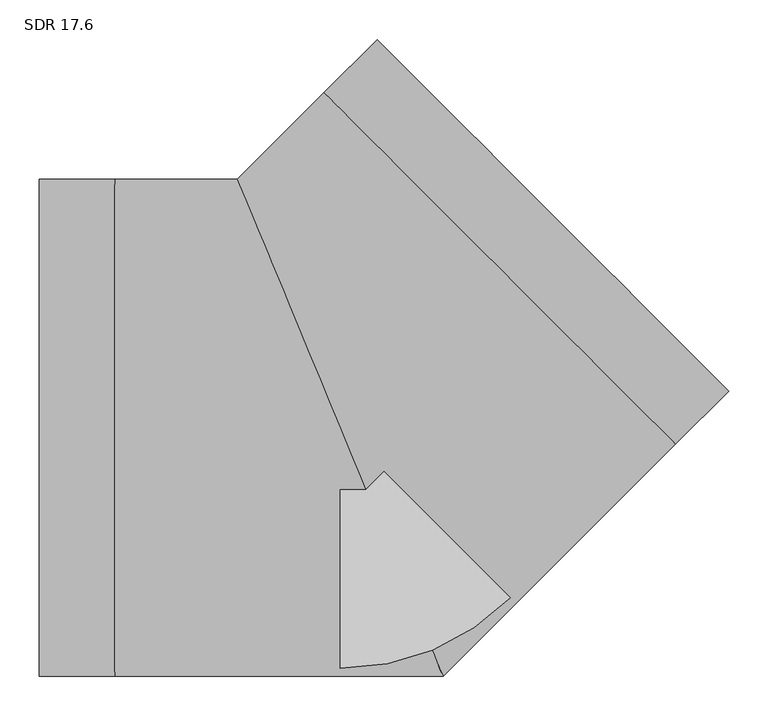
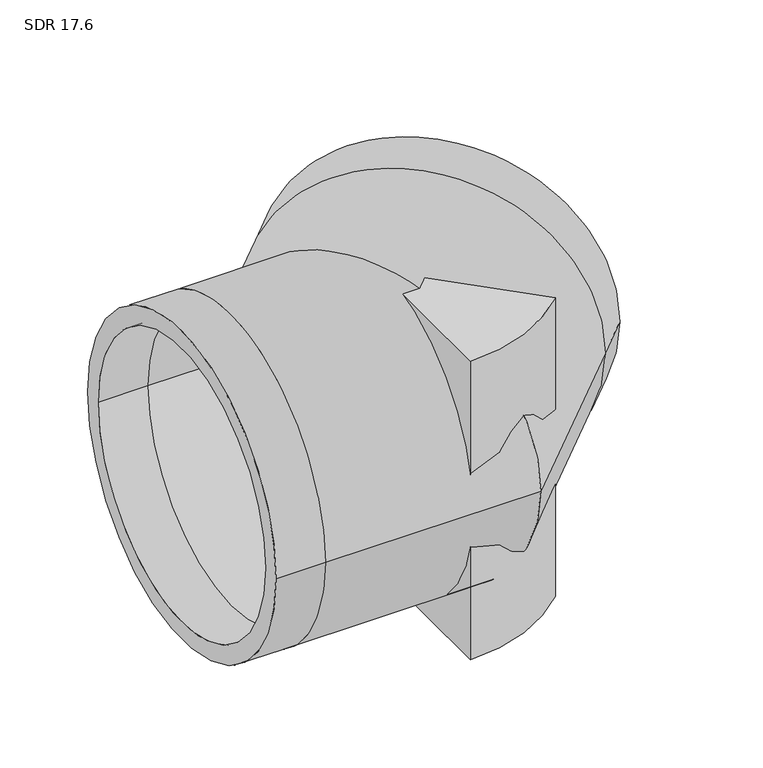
"""IFC4 building model written with IfcOpenShell, lengths in millimetres: pipe fitting geometry, Aquatherm - Elbow Blue BW Segmented : SDR 17.6."""

from ifc_helpers import new_model, si_unit, point, frame, origin, origin_with_axes, origin_2d, place, context, project, spatial, polyline, circle_curve, ellipse_curve, trimmed, segment, composite_curve, outline, extrude, source, transform, mapped, element, save
from ifc_brep_helpers import plane_surface, cylinder_surface, revolved_surface, advanced_brep


def sdr_17_6_9f08af5f(model_context):
    return source(origin(), model_context, "Body", "SolidModel", [
        extrude(outline(composite_curve([segment(polyline([(0.0, -304.8), (0.0, 0.0), (215.5261469, -215.5261469)]), True, "CONTINUOUS"), segment(trimmed(circle_curve(origin_2d(), 304.8), [point((215.5261469, -215.5261469))], [point((0.0, -304.8))], False, "CARTESIAN"), True, "CONTINUOUS")], self_intersect=False)), frame((0.0, 0.0, -304.8), z_axis=(0.0, 0.0, 1.0), x_axis=(1.0, 0.0, 0.0)), (0.0, 0.0, 1.0), 304.8),
        extrude(outline(composite_curve([segment(trimmed(circle_curve(origin_2d(), 304.8), [point((215.5261469, -215.5261469))], [point((0.0, -304.8))], False, "CARTESIAN"), True, "CONTINUOUS"), segment(polyline([(0.0, -304.8), (0.0, 0.0), (215.5261469, -215.5261469)]), True, "CONTINUOUS")], self_intersect=False)), origin_with_axes(), (0.0, 0.0, 1.0), 304.8),
        advanced_brep(
        [(-381.0, -314.96, 0.0), (-381.0, 314.96, 0.0), (-381.0, -279.1722681, 0.0), (-381.0, 279.1722681, 0.0), (492.1180354, 46.6973318, 0.0), (46.6973318, 492.1180354, 0.0), (466.8122875, 72.0030797, 0.0), (72.0030797, 466.8122875, 0.0), (-285.75, -314.96, 0.0), (-285.75, 314.96, 0.0), (-285.75, -279.1722681, 0.0), (-285.75, 279.1722681, 0.0), (130.4607036, -314.96, 0.0), (-130.4607036, 314.96, 0.0), (115.6369397, -279.1722681, 0.0), (-115.6369397, 279.1722681, 0.0), (424.7661145, -20.6545891, 0.0), (-20.6545891, 424.7661145, 0.0), (399.4603666, 4.6511588, 0.0), (4.6511588, 399.4603666, 0.0)],
        [
            (0, 1, circle_curve(frame((-381.0, 0.0, 0.0), z_axis=(-1.0, 0.0, 0.0), x_axis=(0.0, 1.0, 0.0)), 314.96)),
            (1, 0, circle_curve(frame((-381.0, 0.0, 0.0), z_axis=(-1.0, 0.0, 0.0), x_axis=(0.0, 1.0, 0.0)), 314.96)),
            (2, 3, circle_curve(frame((-381.0, 0.0, 0.0), z_axis=(1.0, 0.0, 0.0), x_axis=(0.0, 1.0, 0.0)), 279.1722681)),
            (3, 2, circle_curve(frame((-381.0, 0.0, 0.0), z_axis=(1.0, 0.0, 0.0), x_axis=(0.0, 1.0, 0.0)), 279.1722681)),
            (4, 5, circle_curve(frame((269.4076836, 269.4076836, 0.0), z_axis=(0.7071067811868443, 0.7071067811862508, 0.0), x_axis=(-0.7071067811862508, 0.7071067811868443, 0.0)), 314.96)),
            (5, 4, circle_curve(frame((269.4076836, 269.4076836, 0.0), z_axis=(0.7071067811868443, 0.7071067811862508, 0.0), x_axis=(-0.7071067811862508, 0.7071067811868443, 0.0)), 314.96)),
            (6, 7, circle_curve(frame((269.4076836, 269.4076836, 0.0), z_axis=(-0.7071067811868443, -0.7071067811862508, 0.0), x_axis=(-0.7071067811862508, 0.7071067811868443, 0.0)), 279.1722681)),
            (7, 6, circle_curve(frame((269.4076836, 269.4076836, 0.0), z_axis=(-0.7071067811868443, -0.7071067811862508, 0.0), x_axis=(-0.7071067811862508, 0.7071067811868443, 0.0)), 279.1722681)),
            (0, 8),
            (8, 9, circle_curve(frame((-285.75, 0.0, 0.0), z_axis=(-1.0, 0.0, 0.0), x_axis=(0.0, 1.0, 0.0)), 314.96)),
            (9, 1),
            (9, 8, circle_curve(frame((-285.75, 0.0, 0.0), z_axis=(-1.0, 0.0, 0.0), x_axis=(0.0, 1.0, 0.0)), 314.96)),
            (2, 10),
            (10, 11, circle_curve(frame((-285.75, 0.0, 0.0), z_axis=(1.0, 0.0, 0.0), x_axis=(0.0, 1.0, 0.0)), 279.1722681)),
            (11, 3),
            (11, 10, circle_curve(frame((-285.75, 0.0, 0.0), z_axis=(1.0, 0.0, 0.0), x_axis=(0.0, 1.0, 0.0)), 279.1722681)),
            (8, 12),
            (12, 13, ellipse_curve(frame((0.0, 0.0, 0.0), z_axis=(-0.923879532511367, -0.38268343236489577, 0.0), x_axis=(-0.3826834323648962, 0.9238795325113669, 0.0)), 340.9102474, 314.96)),
            (13, 9),
            (13, 12, ellipse_curve(frame((0.0, 0.0, 0.0), z_axis=(-0.923879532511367, -0.38268343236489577, 0.0), x_axis=(-0.3826834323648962, 0.9238795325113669, 0.0)), 340.9102474, 314.96)),
            (10, 14),
            (14, 15, ellipse_curve(frame((0.0, 0.0, 0.0), z_axis=(0.923879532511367, 0.38268343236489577, 0.0), x_axis=(0.3826834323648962, -0.9238795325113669, 0.0)), 302.1738855, 279.1722681)),
            (15, 11),
            (15, 14, ellipse_curve(frame((0.0, 0.0, 0.0), z_axis=(0.923879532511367, 0.38268343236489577, 0.0), x_axis=(0.3826834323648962, -0.9238795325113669, 0.0)), 302.1738855, 279.1722681)),
            (12, 16),
            (16, 17, circle_curve(frame((202.0557627, 202.0557627, 0.0), z_axis=(-0.7071067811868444, -0.7071067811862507, 0.0), x_axis=(-0.7071067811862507, 0.7071067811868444, 0.0)), 314.96)),
            (17, 13),
            (17, 16, circle_curve(frame((202.0557627, 202.0557627, 0.0), z_axis=(-0.7071067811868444, -0.7071067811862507, 0.0), x_axis=(-0.7071067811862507, 0.7071067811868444, 0.0)), 314.96)),
            (14, 18),
            (18, 19, circle_curve(frame((202.0557627, 202.0557627, 0.0), z_axis=(0.7071067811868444, 0.7071067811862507, 0.0), x_axis=(-0.7071067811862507, 0.7071067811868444, 0.0)), 279.1722681)),
            (19, 15),
            (19, 18, circle_curve(frame((202.0557627, 202.0557627, 0.0), z_axis=(0.7071067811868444, 0.7071067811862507, 0.0), x_axis=(-0.7071067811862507, 0.7071067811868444, 0.0)), 279.1722681)),
            (16, 4),
            (5, 17),
            (18, 6),
            (7, 19),
        ],
        [
            plane_surface(frame((-381.0, 0.0, 0.0), z_axis=(-1.0, 0.0, 0.0), x_axis=(0.0, 0.0, 1.0))),
            plane_surface(frame((269.4076836, 269.4076836, 0.0), z_axis=(0.7071067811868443, 0.7071067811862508, 0.0), x_axis=(0.0, 0.0, 1.0))),
            cylinder_surface(frame((-381.0, 0.0, 0.0), z_axis=(-1.0, 0.0, 0.0), x_axis=(0.0, 1.0, 0.0)), 314.96),
            revolved_surface(polyline([(-285.75, 279.1722681, 0.0), (-381.0, 279.1722681, 0.0)]), (-381.0, 0.0, 0.0), (1.0, 0.0, 0.0)),
            cylinder_surface(frame((-285.75, 0.0, 0.0), z_axis=(-1.0, 0.0, 0.0), x_axis=(0.0, 1.0, 0.0)), 314.96),
            revolved_surface(polyline([(115.63693969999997, 279.1722681, 0.0), (-285.75, 279.1722681, 0.0)]), (-285.75, 0.0, 0.0), (1.0, 0.0, 0.0)),
            cylinder_surface(frame((0.0, 0.0, 0.0), z_axis=(-0.7071067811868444, -0.7071067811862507, 0.0), x_axis=(-0.7071067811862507, 0.7071067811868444, 0.0)), 314.96),
            revolved_surface(polyline([(4.651158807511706, 399.4603665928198, 0.0), (-279.17226809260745, 115.63693969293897, 0.0)]), (0.0, 0.0, 0.0), (0.7071067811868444, 0.7071067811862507, 0.0)),
            cylinder_surface(frame((202.0557627, 202.0557627, 0.0), z_axis=(-0.7071067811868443, -0.7071067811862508, 0.0), x_axis=(-0.7071067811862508, 0.7071067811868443, 0.0)), 314.96),
            revolved_surface(polyline([(72.0030797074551, 466.81228749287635, 0.0), (4.6511588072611, 399.46036659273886, 0.0)]), (202.0557627, 202.0557627, 0.0), (0.7071067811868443, 0.7071067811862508, 0.0)),
        ],
        [
            (0, [[1, 2], [3, 4]]),
            (1, [[5, 6], [7, 8]]),
            (2, [[-1, 9, 10, 11]]),
            (2, [[-2, -11, 12, -9]]),
            (3, [[-3, 13, 14, 15]]),
            (3, [[-4, -15, 16, -13]]),
            (4, [[-10, 17, 18, 19]]),
            (4, [[-12, -19, 20, -17]]),
            (5, [[-14, 21, 22, 23]]),
            (5, [[-16, -23, 24, -21]]),
            (6, [[-18, 25, 26, 27]]),
            (6, [[-20, -27, 28, -25]]),
            (7, [[-22, 29, 30, 31]]),
            (7, [[-24, -31, 32, -29]]),
            (8, [[-26, 33, -6, 34]]),
            (8, [[-28, -34, -5, -33]]),
            (9, [[-30, 35, -8, 36]]),
            (9, [[-32, -36, -7, -35]]),
        ],
    ),
    ])


if __name__ == "__main__":
    model = new_model("IFC4")
    model_context = context("Model", 3, world=origin())
    ifc_project = project(units=[si_unit("LENGTHUNIT", "METRE", prefix="MILLI")], contexts=[model_context])
    site = spatial("IfcSite", under=ifc_project)
    building = spatial("IfcBuilding", under=site)
    placement = place(None, origin())
    sdr_17_6_shape = sdr_17_6_9f08af5f(model_context)
    element("IfcPipeFitting", 1, ObjectType="Aquatherm - Elbow Blue BW Segmented : SDR 17.6", at=placement, inside=building, context=model_context, shape_type="MappedRepresentation", body=[
        mapped(sdr_17_6_shape, transform((0.0, 0.0, 0.0), x_axis=(1.0, 0.0, 0.0), y_axis=(0.0, 1.0, 0.0), z_axis=(0.0, 0.0, 1.0))),
    ])
    save(model, "model.ifc")
